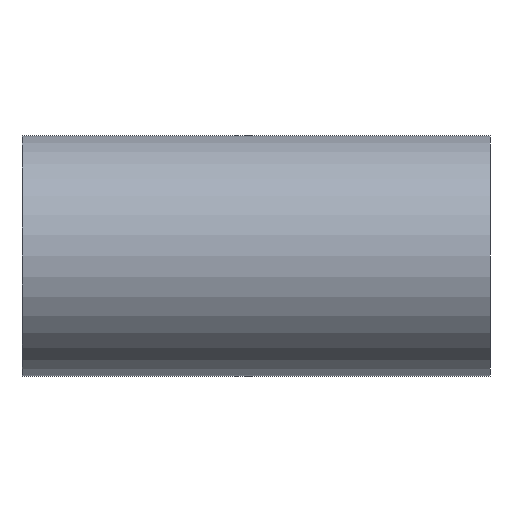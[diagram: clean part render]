
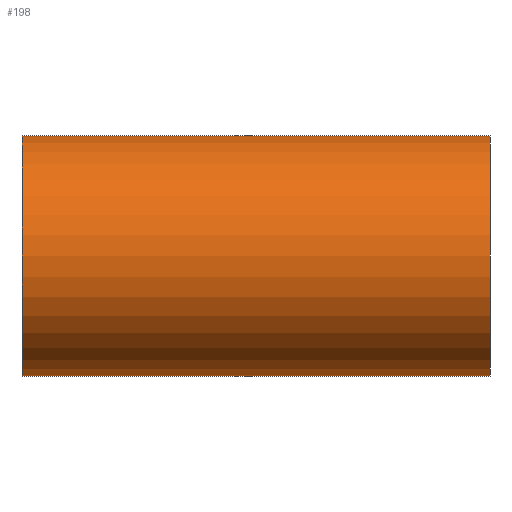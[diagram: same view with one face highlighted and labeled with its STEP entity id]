
A CAD part, left-side view. The second image highlights one B-rep face of the part: STEP entity #198.
In plain terms, the highlighted cylindrical face has radius 9 mm (diameter 18 mm), a full revolution.
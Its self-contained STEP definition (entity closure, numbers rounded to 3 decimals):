
#25=LINE('',#377,#33);
#33=VECTOR('',#318,9.);
#38=CYLINDRICAL_SURFACE('',#248,9.);
#50=FACE_OUTER_BOUND('',#62,.T.);
#62=EDGE_LOOP('',(#181,#182,#183,#184,#185,#186));
#63=CIRCLE('',#220,9.);
#64=CIRCLE('',#221,9.);
#81=CIRCLE('',#246,9.);
#82=CIRCLE('',#247,9.);
#83=VERTEX_POINT('',#321);
#84=VERTEX_POINT('',#322);
#101=VERTEX_POINT('',#372);
#102=VERTEX_POINT('',#373);
#103=EDGE_CURVE('',#83,#84,#63,.T.);
#104=EDGE_CURVE('',#84,#83,#64,.T.);
#128=EDGE_CURVE('',#101,#102,#81,.T.);
#129=EDGE_CURVE('',#102,#101,#82,.T.);
#130=EDGE_CURVE('',#84,#102,#25,.T.);
#181=ORIENTED_EDGE('',*,*,#103,.F.);
#182=ORIENTED_EDGE('',*,*,#104,.F.);
#183=ORIENTED_EDGE('',*,*,#130,.T.);
#184=ORIENTED_EDGE('',*,*,#129,.T.);
#185=ORIENTED_EDGE('',*,*,#128,.T.);
#186=ORIENTED_EDGE('',*,*,#130,.F.);
#198=ADVANCED_FACE('',(#50),#38,.T.);
#220=AXIS2_PLACEMENT_3D('',#323,#253,#254);
#221=AXIS2_PLACEMENT_3D('',#324,#255,#256);
#246=AXIS2_PLACEMENT_3D('',#374,#312,#313);
#247=AXIS2_PLACEMENT_3D('',#375,#314,#315);
#248=AXIS2_PLACEMENT_3D('',#376,#316,#317);
#253=DIRECTION('center_axis',(0.,-1.,0.));
#254=DIRECTION('ref_axis',(1.,0.,0.));
#255=DIRECTION('center_axis',(0.,-1.,0.));
#256=DIRECTION('ref_axis',(1.,0.,0.));
#312=DIRECTION('center_axis',(0.,-1.,0.));
#313=DIRECTION('ref_axis',(1.,0.,0.));
#314=DIRECTION('center_axis',(0.,-1.,0.));
#315=DIRECTION('ref_axis',(1.,0.,0.));
#316=DIRECTION('center_axis',(0.,-1.,0.));
#317=DIRECTION('ref_axis',(1.,0.,0.));
#318=DIRECTION('',(0.,1.,0.));
#321=CARTESIAN_POINT('',(9.,0.,0.));
#322=CARTESIAN_POINT('',(-9.,0.,0.));
#323=CARTESIAN_POINT('Origin',(0.,0.,0.));
#324=CARTESIAN_POINT('Origin',(0.,0.,0.));
#372=CARTESIAN_POINT('',(9.,35.,0.));
#373=CARTESIAN_POINT('',(-9.,35.,0.));
#374=CARTESIAN_POINT('Origin',(0.,35.,0.));
#375=CARTESIAN_POINT('Origin',(0.,35.,0.));
#376=CARTESIAN_POINT('Origin',(0.,7.8,0.));
#377=CARTESIAN_POINT('',(-9.,7.8,0.));
